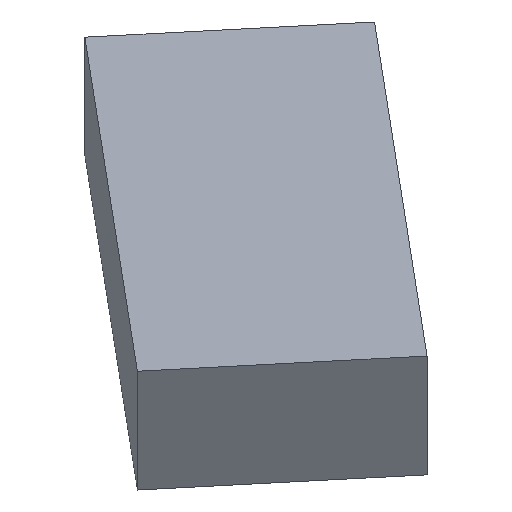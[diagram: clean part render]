
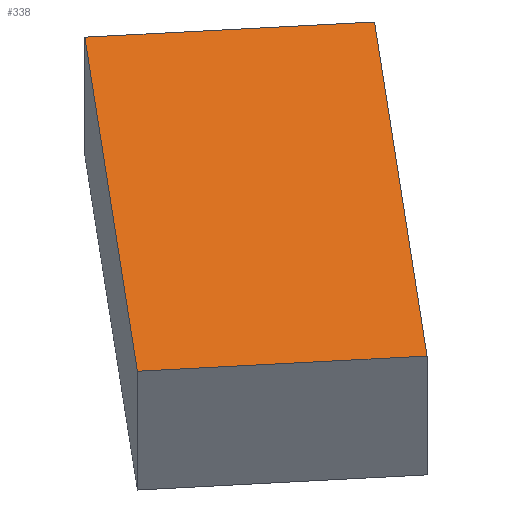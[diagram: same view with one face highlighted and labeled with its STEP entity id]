
A CAD part, isometric view. The second image highlights one B-rep face of the part: STEP entity #338.
In plain terms, the highlighted planar face has unit normal (0, 0, 1).
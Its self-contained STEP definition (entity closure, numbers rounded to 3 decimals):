
#24 = VERTEX_POINT('',#25);
#25 = CARTESIAN_POINT('',(-381.145,-161.792,152.));
#32 = PLANE('',#33);
#33 = AXIS2_PLACEMENT_3D('',#34,#35,#36);
#34 = CARTESIAN_POINT('',(-381.145,-161.792,144.));
#35 = DIRECTION('',(-0.768,0.64,0.));
#36 = DIRECTION('',(0.64,0.768,0.));
#44 = PLANE('',#45);
#45 = AXIS2_PLACEMENT_3D('',#46,#47,#48);
#46 = CARTESIAN_POINT('',(-368.855,-172.035,144.));
#47 = DIRECTION('',(-0.64,-0.768,0.));
#48 = DIRECTION('',(-0.768,0.64,0.));
#56 = EDGE_CURVE('',#24,#57,#59,.T.);
#57 = VERTEX_POINT('',#58);
#58 = CARTESIAN_POINT('',(-360.69,-137.247,152.));
#59 = SURFACE_CURVE('',#60,(#64,#71),.PCURVE_S1.);
#60 = LINE('',#61,#62);
#61 = CARTESIAN_POINT('',(-381.145,-161.792,152.));
#62 = VECTOR('',#63,1.);
#63 = DIRECTION('',(0.64,0.768,0.));
#64 = PCURVE('',#32,#65);
#65 = DEFINITIONAL_REPRESENTATION('',(#66),#70);
#66 = LINE('',#67,#68);
#67 = CARTESIAN_POINT('',(0.,-8.));
#68 = VECTOR('',#69,1.);
#69 = DIRECTION('',(1.,0.));
#70 = ( GEOMETRIC_REPRESENTATION_CONTEXT(2) 
PARAMETRIC_REPRESENTATION_CONTEXT() REPRESENTATION_CONTEXT('2D SPACE',''
  ) );
#71 = PCURVE('',#72,#77);
#72 = PLANE('',#73);
#73 = AXIS2_PLACEMENT_3D('',#74,#75,#76);
#74 = CARTESIAN_POINT('',(-364.772,-154.641,152.));
#75 = DIRECTION('',(-0.,-0.,-1.));
#76 = DIRECTION('',(-1.,0.,0.));
#77 = DEFINITIONAL_REPRESENTATION('',(#78),#82);
#78 = LINE('',#79,#80);
#79 = CARTESIAN_POINT('',(16.373,-7.15));
#80 = VECTOR('',#81,1.);
#81 = DIRECTION('',(-0.64,0.768));
#82 = ( GEOMETRIC_REPRESENTATION_CONTEXT(2) 
PARAMETRIC_REPRESENTATION_CONTEXT() REPRESENTATION_CONTEXT('2D SPACE',''
  ) );
#100 = PLANE('',#101);
#101 = AXIS2_PLACEMENT_3D('',#102,#103,#104);
#102 = CARTESIAN_POINT('',(-360.69,-137.247,144.));
#103 = DIRECTION('',(0.64,0.768,-0.));
#104 = DIRECTION('',(0.768,-0.64,0.));
#142 = EDGE_CURVE('',#57,#143,#145,.T.);
#143 = VERTEX_POINT('',#144);
#144 = CARTESIAN_POINT('',(-348.399,-147.491,152.));
#145 = SURFACE_CURVE('',#146,(#150,#157),.PCURVE_S1.);
#146 = LINE('',#147,#148);
#147 = CARTESIAN_POINT('',(-360.69,-137.247,152.));
#148 = VECTOR('',#149,1.);
#149 = DIRECTION('',(0.768,-0.64,0.));
#150 = PCURVE('',#100,#151);
#151 = DEFINITIONAL_REPRESENTATION('',(#152),#156);
#152 = LINE('',#153,#154);
#153 = CARTESIAN_POINT('',(0.,-8.));
#154 = VECTOR('',#155,1.);
#155 = DIRECTION('',(1.,0.));
#156 = ( GEOMETRIC_REPRESENTATION_CONTEXT(2) 
PARAMETRIC_REPRESENTATION_CONTEXT() REPRESENTATION_CONTEXT('2D SPACE',''
  ) );
#157 = PCURVE('',#72,#158);
#158 = DEFINITIONAL_REPRESENTATION('',(#159),#163);
#159 = LINE('',#160,#161);
#160 = CARTESIAN_POINT('',(-4.082,17.394));
#161 = VECTOR('',#162,1.);
#162 = DIRECTION('',(-0.768,-0.64));
#163 = ( GEOMETRIC_REPRESENTATION_CONTEXT(2) 
PARAMETRIC_REPRESENTATION_CONTEXT() REPRESENTATION_CONTEXT('2D SPACE',''
  ) );
#181 = PLANE('',#182);
#182 = AXIS2_PLACEMENT_3D('',#183,#184,#185);
#183 = CARTESIAN_POINT('',(-348.399,-147.491,144.));
#184 = DIRECTION('',(0.768,-0.64,0.));
#185 = DIRECTION('',(-0.64,-0.768,0.));
#218 = EDGE_CURVE('',#143,#219,#221,.T.);
#219 = VERTEX_POINT('',#220);
#220 = CARTESIAN_POINT('',(-368.855,-172.035,152.));
#221 = SURFACE_CURVE('',#222,(#226,#233),.PCURVE_S1.);
#222 = LINE('',#223,#224);
#223 = CARTESIAN_POINT('',(-348.399,-147.491,152.));
#224 = VECTOR('',#225,1.);
#225 = DIRECTION('',(-0.64,-0.768,0.));
#226 = PCURVE('',#181,#227);
#227 = DEFINITIONAL_REPRESENTATION('',(#228),#232);
#228 = LINE('',#229,#230);
#229 = CARTESIAN_POINT('',(0.,-8.));
#230 = VECTOR('',#231,1.);
#231 = DIRECTION('',(1.,0.));
#232 = ( GEOMETRIC_REPRESENTATION_CONTEXT(2) 
PARAMETRIC_REPRESENTATION_CONTEXT() REPRESENTATION_CONTEXT('2D SPACE',''
  ) );
#233 = PCURVE('',#72,#234);
#234 = DEFINITIONAL_REPRESENTATION('',(#235),#239);
#235 = LINE('',#236,#237);
#236 = CARTESIAN_POINT('',(-16.373,7.15));
#237 = VECTOR('',#238,1.);
#238 = DIRECTION('',(0.64,-0.768));
#239 = ( GEOMETRIC_REPRESENTATION_CONTEXT(2) 
PARAMETRIC_REPRESENTATION_CONTEXT() REPRESENTATION_CONTEXT('2D SPACE',''
  ) );
#289 = EDGE_CURVE('',#219,#24,#290,.T.);
#290 = SURFACE_CURVE('',#291,(#295,#302),.PCURVE_S1.);
#291 = LINE('',#292,#293);
#292 = CARTESIAN_POINT('',(-368.855,-172.035,152.));
#293 = VECTOR('',#294,1.);
#294 = DIRECTION('',(-0.768,0.64,0.));
#295 = PCURVE('',#44,#296);
#296 = DEFINITIONAL_REPRESENTATION('',(#297),#301);
#297 = LINE('',#298,#299);
#298 = CARTESIAN_POINT('',(0.,-8.));
#299 = VECTOR('',#300,1.);
#300 = DIRECTION('',(1.,0.));
#301 = ( GEOMETRIC_REPRESENTATION_CONTEXT(2) 
PARAMETRIC_REPRESENTATION_CONTEXT() REPRESENTATION_CONTEXT('2D SPACE',''
  ) );
#302 = PCURVE('',#72,#303);
#303 = DEFINITIONAL_REPRESENTATION('',(#304),#308);
#304 = LINE('',#305,#306);
#305 = CARTESIAN_POINT('',(4.082,-17.394));
#306 = VECTOR('',#307,1.);
#307 = DIRECTION('',(0.768,0.64));
#308 = ( GEOMETRIC_REPRESENTATION_CONTEXT(2) 
PARAMETRIC_REPRESENTATION_CONTEXT() REPRESENTATION_CONTEXT('2D SPACE',''
  ) );
#338 = ADVANCED_FACE('',(#339),#72,.F.);
#339 = FACE_BOUND('',#340,.F.);
#340 = EDGE_LOOP('',(#341,#342,#343,#344));
#341 = ORIENTED_EDGE('',*,*,#56,.T.);
#342 = ORIENTED_EDGE('',*,*,#142,.T.);
#343 = ORIENTED_EDGE('',*,*,#218,.T.);
#344 = ORIENTED_EDGE('',*,*,#289,.T.);
